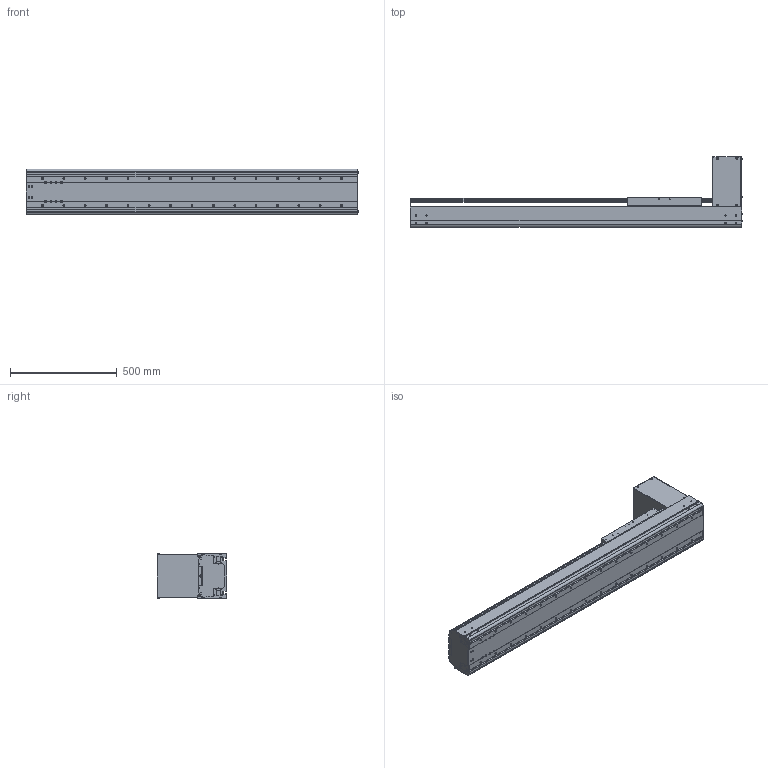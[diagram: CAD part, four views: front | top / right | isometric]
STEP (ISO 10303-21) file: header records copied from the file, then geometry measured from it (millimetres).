
FILE_DESCRIPTION((''),'2;1');
FILE_NAME('BE60J-BT-L19N-95_IGS_PRT','2017-06-18T',(' '),(''),'PRO/ENGINEER BY PARAMETRIC TECHNOLOGY CORPORATION, 2015030','PRO/ENGINEER BY PARAMETRIC TECHNOLOGY CORPORATION, 2015030','');
FILE_SCHEMA(('CONFIG_CONTROL_DESIGN'));
Products named in the file (1): BE60J-BT-L19N-95_IGS_PRT
Bounding box: 1554.4 x 327.5 x 214 mm (x, y, z)
Volume: 11404379.4 mm3; surface area: 3612539.3 mm2
Topology: 1 solids, 227 shells, 2062 faces, 5748 edges, 3814 vertices
Faces by surface type: cylinder 972, plane 814, cone 180, sphere 48, torus 48
Entity records: 68200 total; most frequent: CARTESIAN_POINT 15338, DIRECTION 11121, ORIENTED_EDGE 10388, EDGE_CURVE 5596, AXIS2_PLACEMENT_3D 4165, VERTEX_POINT 3798, VECTOR 2791, LINE 2791
